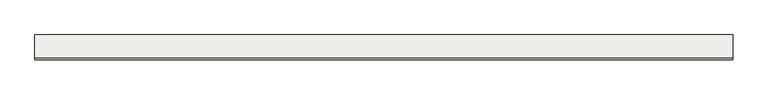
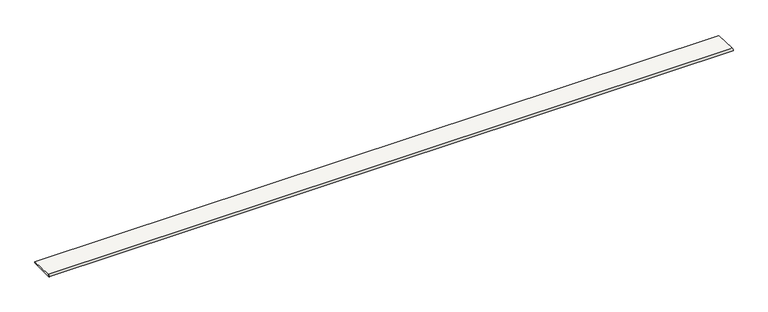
"""IFC4 building model written with IfcOpenShell, lengths in millimetres: slab geometry, ROSA GRES_S62 : Pieza S62_Serena_Ocra_Anti-Slip."""

from ifc_helpers import new_model, si_unit, point, frame, frame_2d, origin, place, context, project, spatial, polyline, circle_curve, trimmed, segment, composite_curve, outline, extrude, source, transform, mapped, element, save


def slab_7903fd34(model_context):
    return source(origin(), model_context, "Body", "SweptSolid", [
        extrude(outline(composite_curve([segment(polyline([(-0.261516, 14.0545458), (291.6389713, 0.0), (291.6389713, -12.0), (-15.0, -12.0)]), True, "CONTINUOUS"), segment(trimmed(circle_curve(frame_2d((-1.0275626, -2.7080096)), 16.7800504), [point((-15.0, -12.0))], [point((-0.261516, 14.0545458))], False, "CARTESIAN"), True, "CONTINUOUS")], self_intersect=False)), frame((0.0, 0.0, 0.0), z_axis=(1.0, 0.0, 0.0), x_axis=(0.0, 1.0, 0.0)), (0.0, 0.0, 1.0), 8660.0),
    ])


if __name__ == "__main__":
    model = new_model("IFC4")
    model_context = context("Model", 3, world=origin())
    ifc_project = project(units=[si_unit("LENGTHUNIT", "METRE", prefix="MILLI")], contexts=[model_context])
    site = spatial("IfcSite", under=ifc_project)
    building = spatial("IfcBuilding", under=site)
    placement = place(None, origin())
    slab_shape = slab_7903fd34(model_context)
    element("IfcSlab", 1, ObjectType="ROSA GRES_S62 : Pieza S62_Serena_Ocra_Anti-Slip", at=placement, inside=building, context=model_context, shape_type="MappedRepresentation", body=[
        mapped(slab_shape, transform((0.0, 0.0, 0.0), x_axis=(1.0, 0.0, 0.0), y_axis=(0.0, 1.0, 0.0), z_axis=(0.0, 0.0, 1.0))),
    ])
    save(model, "model.ifc")
